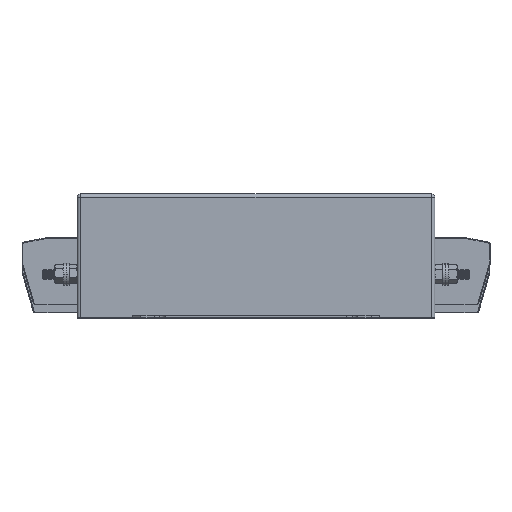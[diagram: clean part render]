
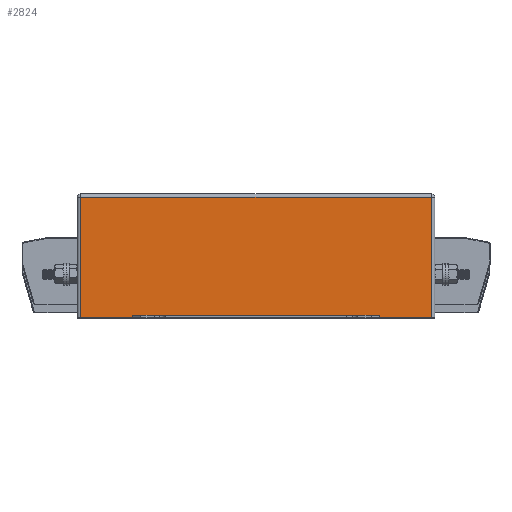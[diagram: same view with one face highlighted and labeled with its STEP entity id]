
A CAD part, top view. The second image highlights one B-rep face of the part: STEP entity #2824.
In plain terms, the highlighted planar face has unit normal (0, 0, 1).
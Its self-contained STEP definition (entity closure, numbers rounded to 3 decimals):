
#736 = CARTESIAN_POINT ( 'NONE',  ( -33., 72., -15. ) ) ;
#865 = LINE ( 'NONE', #5437, #7456 ) ;
#867 = VERTEX_POINT ( 'NONE', #1599 ) ;
#999 = AXIS2_PLACEMENT_3D ( 'NONE', #5469, #2512, #4707 ) ;
#1021 = DIRECTION ( 'NONE',  ( 0., -1., 0. ) ) ;
#1448 = EDGE_CURVE ( 'NONE', #3977, #4012, #865, .T. ) ;
#1599 = CARTESIAN_POINT ( 'NONE',  ( 179., 72., -15. ) ) ;
#1867 = DIRECTION ( 'NONE',  ( -1., 0., 0. ) ) ;
#1886 = LINE ( 'NONE', #736, #7678 ) ;
#1899 = ORIENTED_EDGE ( 'NONE', *, *, #7108, .T. ) ;
#2171 = DIRECTION ( 'NONE',  ( 0., 1., 0. ) ) ;
#2491 = CARTESIAN_POINT ( 'NONE',  ( -31., 74., -15. ) ) ;
#2512 = DIRECTION ( 'NONE',  ( 0., 0., 1. ) ) ;
#2824 = ADVANCED_FACE ( 'NONE', ( #3339 ), #7534, .T. ) ;
#3339 = FACE_OUTER_BOUND ( 'NONE', #8029, .T. ) ;
#3611 = LINE ( 'NONE', #2491, #4292 ) ;
#3900 = VERTEX_POINT ( 'NONE', #9204 ) ;
#3977 = VERTEX_POINT ( 'NONE', #4302 ) ;
#4012 = VERTEX_POINT ( 'NONE', #8508 ) ;
#4292 = VECTOR ( 'NONE', #1021, 1000. ) ;
#4301 = LINE ( 'NONE', #8700, #5776 ) ;
#4302 = CARTESIAN_POINT ( 'NONE',  ( 179., 0., -15. ) ) ;
#4707 = DIRECTION ( 'NONE',  ( 1., 0., 0. ) ) ;
#5253 = ORIENTED_EDGE ( 'NONE', *, *, #1448, .F. ) ;
#5437 = CARTESIAN_POINT ( 'NONE',  ( 0., 0., -15. ) ) ;
#5469 = CARTESIAN_POINT ( 'NONE',  ( 0., 74., -15. ) ) ;
#5776 = VECTOR ( 'NONE', #2171, 1000. ) ;
#7108 = EDGE_CURVE ( 'NONE', #3977, #867, #4301, .T. ) ;
#7341 = EDGE_CURVE ( 'NONE', #3900, #4012, #3611, .T. ) ;
#7456 = VECTOR ( 'NONE', #1867, 1000. ) ;
#7534 = PLANE ( 'NONE',  #999 ) ;
#7678 = VECTOR ( 'NONE', #7927, 1000. ) ;
#7730 = ORIENTED_EDGE ( 'NONE', *, *, #7341, .T. ) ;
#7879 = EDGE_CURVE ( 'NONE', #867, #3900, #1886, .T. ) ;
#7927 = DIRECTION ( 'NONE',  ( -1., 0., 0. ) ) ;
#8029 = EDGE_LOOP ( 'NONE', ( #8965, #7730, #5253, #1899 ) ) ;
#8508 = CARTESIAN_POINT ( 'NONE',  ( -31., 0., -15. ) ) ;
#8700 = CARTESIAN_POINT ( 'NONE',  ( 179., 74., -15. ) ) ;
#8965 = ORIENTED_EDGE ( 'NONE', *, *, #7879, .T. ) ;
#9204 = CARTESIAN_POINT ( 'NONE',  ( -31., 72., -15. ) ) ;
